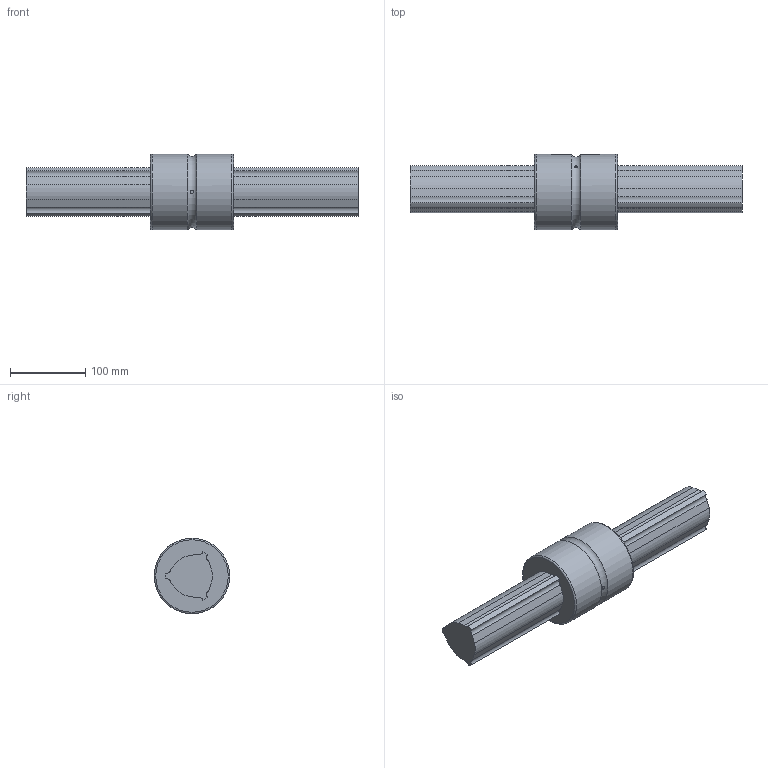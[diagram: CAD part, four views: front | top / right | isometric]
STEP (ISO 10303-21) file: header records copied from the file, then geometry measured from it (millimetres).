
FILE_DESCRIPTION(/* description */ ('STEP AP203'),/* implementation_level */ '2;1');
FILE_NAME(/* name */ 'LBS70+440L(1101650)',/* time_stamp */ '2024-05-23T11:58:37+02:00',/* author */ ('License CC BY-ND 4.0'),/* organization */ ('CADENAS'),/* preprocessor_version */ 'ST-DEVELOPER v19.3',/* originating_system */ 'PARTsolutions',/* authorisation */ ' ');
FILE_SCHEMA (('CONFIG_CONTROL_DESIGN'));
Length unit declared in the file: millimetre
Products named in the file (3): LBS70+440L(1101650); LBS70 Nut; LBS701440 Spline Shaft
Assembly tree (2 placements, depth 2):
  LBS70+440L(1101650)
    LBS70 Nut
    LBS701440 Spline Shaft
Bounding box: 440 x 100 x 100 mm (x, y, z)
Volume: 1718620.8 mm3; surface area: 163510.5 mm2
Topology: 3 solids, 3 shells, 57 faces, 148 edges, 99 vertices
Faces by surface type: cylinder 31, plane 22, torus 4
Full cylindrical faces by diameter (mm): 4 x3, 100 x2
Entity records: 1806 total; most frequent: CARTESIAN_POINT 351, DIRECTION 306, ORIENTED_EDGE 272, EDGE_CURVE 136, AXIS2_PLACEMENT_3D 118, VERTEX_POINT 94, LINE 70, VECTOR 70
